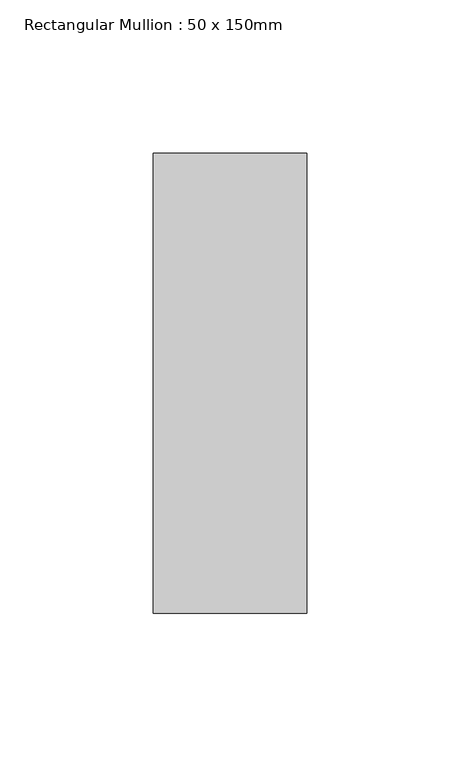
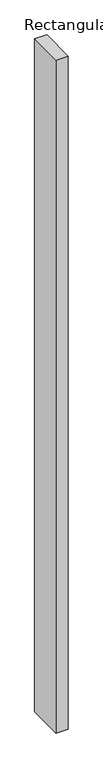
"""IFC4 building model written with IfcOpenShell, lengths in millimetres: member geometry, Rectangular Mullion : 50 x 150mm."""

from ifc_helpers import new_model, si_unit, frame, origin, place, context, project, spatial, polyline, outline, extrude, source, transform, mapped, element, save


def rectangular_mullion_50_x_150mm_7dcb5a67(model_context):
    return source(origin(), model_context, "Body", "SweptSolid", [
        extrude(outline(polyline([(0.0, 75.0), (0.0, -75.0), (-50.0, -75.0), (-50.0, 75.0), (0.0, 75.0)])), frame((0.0, 0.0, -2895.0), z_axis=(0.0, 0.0, 1.0), x_axis=(1.0, 0.0, 0.0)), (0.0, 0.0, 1.0), 2895.0),
    ])


if __name__ == "__main__":
    model = new_model("IFC4")
    model_context = context("Model", 3, world=origin())
    ifc_project = project(units=[si_unit("LENGTHUNIT", "METRE", prefix="MILLI")], contexts=[model_context])
    site = spatial("IfcSite", under=ifc_project)
    building = spatial("IfcBuilding", under=site)
    placement = place(None, origin())
    rectangular_mullion_50_x_150mm_shape = rectangular_mullion_50_x_150mm_7dcb5a67(model_context)
    element("IfcMember", 1, ObjectType="Rectangular Mullion : 50 x 150mm", at=placement, inside=building, context=model_context, shape_type="MappedRepresentation", body=[
        mapped(rectangular_mullion_50_x_150mm_shape, transform((0.0, 0.0, 0.0), x_axis=(1.0, 0.0, 0.0), y_axis=(0.0, 1.0, 0.0), z_axis=(0.0, 0.0, 1.0))),
    ])
    save(model, "model.ifc")
